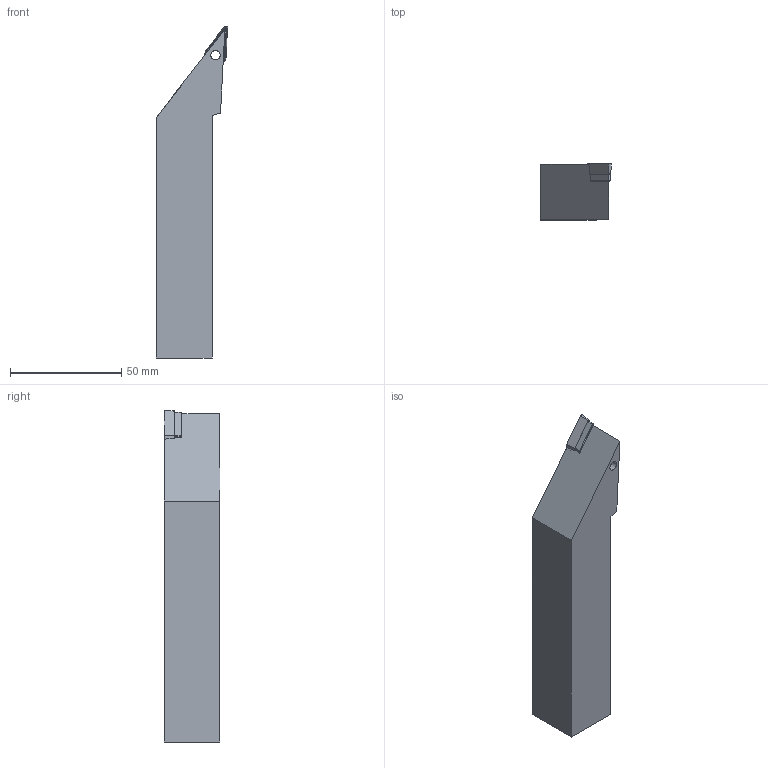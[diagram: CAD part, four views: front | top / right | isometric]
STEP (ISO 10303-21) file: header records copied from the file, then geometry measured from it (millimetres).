
FILE_DESCRIPTION(/* description */ (''),/* implementation_level */ '2;1');
FILE_NAME(/* name */ 'SVJBR2525-M16-HAAS.stp',/* time_stamp */ '2021-09-29T10:55:02+09:00',/* author */ (''),/* organization */ (''),/* preprocessor_version */ 'ST-DEVELOPER v16.7',/* originating_system */ 'SIEMENS PLM Software NX 1946',/* authorisation */ '');
FILE_SCHEMA (('AP203_CONFIGURATION_CONTROLLED_3D_DESIGN_OF_MECHANICAL_PARTS_AND_ASSEMBLIES_MIM_LF { 1 0 10303 403 2 1 2}'));
Length unit declared in the file: millimetre
Products named in the file (1): user51A0C9E069a5
Bounding box: 31.94 x 25 x 149.15 mm (x, y, z)
Volume: 81044.9 mm3; surface area: 16126.9 mm2
Topology: 3 solids, 3 shells, 58 faces, 147 edges, 95 vertices
Faces by surface type: plane 43, cylinder 8, cone 7
Full cylindrical faces by diameter (mm): 4.2 x1, 5.4 x1, 6.2 x1
Entity records: 1806 total; most frequent: CARTESIAN_POINT 295, DIRECTION 286, ORIENTED_EDGE 284, EDGE_CURVE 142, LINE 116, VECTOR 116, VERTEX_POINT 94, AXIS2_PLACEMENT_3D 85
